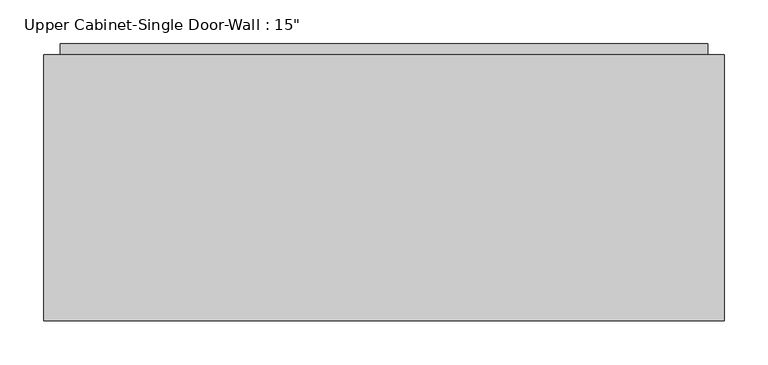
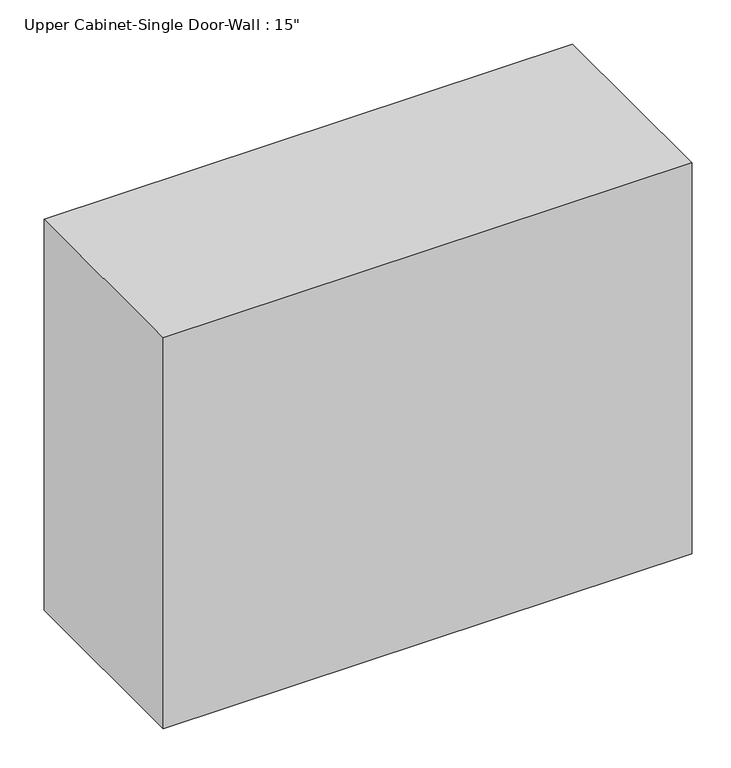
"""IFC4 building model written with IfcOpenShell, lengths in millimetres: furniture geometry."""

import ifcopenshell
import ifcopenshell.guid

model = None  # the IFC model being written
_history = None  # IfcOwnerHistory: only IFC2X3 demands one
_inside = {}  # id of a spatial element -> (the spatial element, [elements in it])
_under = {}  # id of a project, library or spatial element -> (it, [spatial elements below it])
_declared = {}  # id of a project -> (the project, [libraries it declares])
_typed = {}  # id of a type object -> (the type object, [elements of that type])
_made_of = {}  # id of a material, layer set ... -> (it, [elements and type objects made of it])


def new_model(schema):
    """Start an empty IFC model of exactly this schema.

    Asked for "IFC4X3", IfcOpenShell would pick the latest addendum, in which some entities
    have other attributes; the version numbers below select the first issue.
    IFC2X3 requires an IfcOwnerHistory on every rooted entity: one is made here for all.
    """
    global model, _history
    if schema == "IFC4X3":
        model = ifcopenshell.file(schema_version=(4, 3, 0, 0))
    else:
        model = ifcopenshell.file(schema=schema)
    _inside.clear()
    _under.clear()
    _declared.clear()
    _typed.clear()
    _made_of.clear()
    _history = None
    if model.schema == "IFC2X3":
        org = make("IfcOrganization", Name="unknown")
        user = make(
            "IfcPersonAndOrganization",
            ThePerson=make("IfcPerson", FamilyName="unknown"),
            TheOrganization=org,
        )
        app = make(
            "IfcApplication",
            ApplicationDeveloper=org,
            Version="unknown",
            ApplicationFullName="unknown",
            ApplicationIdentifier="unknown",
        )
        _history = make(
            "IfcOwnerHistory",
            OwningUser=user,
            OwningApplication=app,
            ChangeAction="ADDED",
            CreationDate=0,
        )
    return model


def make(cls, **values):
    """One entity of the class cls with the attributes given. An attribute that is None is left unset."""
    return model.create_entity(
        cls, **{name: value for name, value in values.items() if value is not None}
    )


def rooted(cls, **values):
    """An entity with a GlobalId (a new one), such as an element, a storey or a relation."""
    return make(cls, GlobalId=ifcopenshell.guid.new(), OwnerHistory=_history, **values)


def si_unit(unit_type, name, prefix=None):
    """IfcSIUnit, for example si_unit("LENGTHUNIT", "METRE", prefix="MILLI")."""
    return make("IfcSIUnit", UnitType=unit_type, Prefix=prefix, Name=name)


def assignment(units):
    """IfcUnitAssignment: the units of a project."""
    return None if units is None else make("IfcUnitAssignment", Units=units)


def point(xyz):
    """IfcCartesianPoint."""
    return None if xyz is None else make("IfcCartesianPoint", Coordinates=xyz)


def direction(xyz):
    """IfcDirection."""
    return None if xyz is None else make("IfcDirection", DirectionRatios=xyz)


def frame(location, z_axis=None, x_axis=None):
    """IfcAxis2Placement3D, a coordinate frame: its origin and axes. An axis left out is left unset."""
    return make(
        "IfcAxis2Placement3D",
        Location=point(location),
        Axis=direction(z_axis),
        RefDirection=direction(x_axis),
    )


def origin():
    """The frame at (0, 0, 0) with its axes left unset."""
    return frame((0.0, 0.0, 0.0))


def place(relative_to, where):
    """IfcLocalPlacement: puts the frame where relative to a parent placement (None: the world)."""
    return make(
        "IfcLocalPlacement", PlacementRelTo=relative_to, RelativePlacement=where
    )


def context(
    kind, dimensions, precision=None, world=None, true_north=None, identifier=None
):
    """IfcGeometricRepresentationContext, for example the 3D "Model" context."""
    return make(
        "IfcGeometricRepresentationContext",
        ContextIdentifier=identifier,
        ContextType=kind,
        CoordinateSpaceDimension=dimensions,
        Precision=precision,
        WorldCoordinateSystem=world,
        TrueNorth=true_north,
    )


def project(units=None, contexts=None):
    """IfcProject with its units and contexts."""
    return rooted(
        "IfcProject",
        Name="project",
        RepresentationContexts=contexts,
        UnitsInContext=assignment(units),
    )


def spatial(cls, under=None, at=None, **own):
    """A site, building, storey or space (cls), placed at a placement, below another one or the project."""
    s = rooted(cls, ObjectPlacement=at, **own)
    if under is not None:
        _under.setdefault(under.id(), (under, []))[1].append(s)
    return s


def polyline(points):
    """IfcPolyline through the points."""
    return make("IfcPolyline", Points=[point(p) for p in points])


def outline(outer, holes=None, kind="AREA"):
    """IfcArbitraryClosedProfileDef: a profile drawn as a closed curve; with holes, ...WithVoids."""
    if holes is None:
        return make("IfcArbitraryClosedProfileDef", ProfileType=kind, OuterCurve=outer)
    return make(
        "IfcArbitraryProfileDefWithVoids",
        ProfileType=kind,
        OuterCurve=outer,
        InnerCurves=holes,
    )


def extrude(swept, where, along, depth):
    """IfcExtrudedAreaSolid: the profile swept, set in the frame where, extruded along a direction by depth."""
    return make(
        "IfcExtrudedAreaSolid",
        SweptArea=swept,
        Position=where,
        ExtrudedDirection=direction(along),
        Depth=depth,
    )


def faces_of(points, faces, orient=None, outer=None):
    """IfcFace entities. A face is a list of loops; a loop is a list of indices into points, from 0.

    orient and outer hold one flag for each loop. By default every Orientation is true, the
    first loop of a face is its IfcFaceOuterBound and the others are IfcFaceBound.
    """
    made = []
    for i, loops in enumerate(faces):
        bounds = []
        for j, loop in enumerate(loops):
            is_outer = j == 0 if outer is None else outer[i][j]
            bounds.append(
                make(
                    "IfcFaceOuterBound" if is_outer else "IfcFaceBound",
                    Bound=make("IfcPolyLoop", Polygon=[points[k] for k in loop]),
                    Orientation=True if orient is None else orient[i][j],
                )
            )
        made.append(make("IfcFace", Bounds=bounds))
    return made


def faceted_brep(points, faces, orient=None, outer=None, voids=None):
    """IfcFacetedBrep: a solid bounded by flat faces; with voids (closed shells), ...WithVoids."""
    shared = [point(p) for p in points]
    hull = make("IfcClosedShell", CfsFaces=faces_of(shared, faces, orient, outer))
    if voids is None:
        return make("IfcFacetedBrep", Outer=hull)
    return make(
        "IfcFacetedBrepWithVoids",
        Outer=hull,
        Voids=[
            make(cls, CfsFaces=faces_of(shared, fs, o, b)) for cls, fs, o, b in voids
        ],
    )


def shape(context_of_items, identifier, shape_type, items):
    """IfcShapeRepresentation: the items that make up one representation, for example the "Body"."""
    return make(
        "IfcShapeRepresentation",
        ContextOfItems=context_of_items,
        RepresentationIdentifier=identifier,
        RepresentationType=shape_type,
        Items=items,
    )


def source(mapping_origin, context_of_items, identifier, shape_type, items):
    """IfcRepresentationMap: a shape defined once, which mapped items show again and again."""
    return make(
        "IfcRepresentationMap",
        MappingOrigin=mapping_origin,
        MappedRepresentation=shape(context_of_items, identifier, shape_type, items),
    )


def transform(
    local_origin,
    x_axis=None,
    y_axis=None,
    z_axis=None,
    scale=None,
    scale2=None,
    scale3=None,
    uniform=True,
):
    """IfcCartesianTransformationOperator3D, or its non-uniform kind. x_axis, y_axis, z_axis: its Axis1, 2, 3."""
    if uniform:
        return make(
            "IfcCartesianTransformationOperator3D",
            Axis1=direction(x_axis),
            Axis2=direction(y_axis),
            LocalOrigin=point(local_origin),
            Scale=scale,
            Axis3=direction(z_axis),
        )
    return make(
        "IfcCartesianTransformationOperator3DnonUniform",
        Axis1=direction(x_axis),
        Axis2=direction(y_axis),
        LocalOrigin=point(local_origin),
        Scale=scale,
        Axis3=direction(z_axis),
        Scale2=scale2,
        Scale3=scale3,
    )


def mapped(mapping_source, mapping_target):
    """IfcMappedItem: shows the shape of a source again, moved by a transform."""
    return make(
        "IfcMappedItem", MappingSource=mapping_source, MappingTarget=mapping_target
    )


def made_of(thing, what):
    """Note that an element or type object is made of a material, layer set ...; save() writes the relation."""
    if what is not None:
        _made_of.setdefault(what.id(), (what, []))[1].append(thing)
    return thing


def element(
    cls,
    number,
    at=None,
    inside=None,
    cuts=None,
    type_object=None,
    material=None,
    context=None,
    identifier="Body",
    shape_type=None,
    held_by="IfcProductDefinitionShape",
    body=None,
    shapes=None,
    **own,
):
    """One element of the class cls, such as IfcWall. Its Tag is "e" and its number.

    at: its placement. inside: the storey or other place that contains it. cuts: it is an
    opening in that element (IfcRelVoidsElement). A single representation is given by context,
    identifier, shape_type and body (its items); several are given by shapes. held_by: the class
    of the entity that holds the representations. save() writes the other relations.
    """
    e = rooted(cls, Tag="e%d" % number, ObjectPlacement=at, **own)
    if body is not None:
        shapes = [shape(context, identifier, shape_type, body)]
    if shapes is not None:
        e.Representation = make(held_by, Representations=shapes)
    if inside is not None:
        _inside.setdefault(inside.id(), (inside, []))[1].append(e)
    if cuts is not None:
        rooted(
            "IfcRelVoidsElement", RelatingBuildingElement=cuts, RelatedOpeningElement=e
        )
    if type_object is not None:
        _typed.setdefault(type_object.id(), (type_object, []))[1].append(e)
    return made_of(e, material)


def aggregate(whole, parts):
    """IfcRelAggregates: a whole, such as a stair, and the parts it consists of."""
    return rooted("IfcRelAggregates", RelatingObject=whole, RelatedObjects=parts)


def save(model, path):
    """Write the relations noted so far, then the file.

    IfcRelAggregates (storeys below a building ...), IfcRelContainedInSpatialStructure (elements
    in a storey), IfcRelDefinesByType, IfcRelAssociatesMaterial and IfcRelDeclares: one each for
    every whole, place, type object, material and project.
    """
    for whole, parts in _under.values():
        aggregate(whole, parts)
    for where, things in _inside.values():
        rooted(
            "IfcRelContainedInSpatialStructure",
            RelatedElements=things,
            RelatingStructure=where,
        )
    for kind, things in _typed.values():
        rooted("IfcRelDefinesByType", RelatedObjects=things, RelatingType=kind)
    for what, things in _made_of.values():
        rooted("IfcRelAssociatesMaterial", RelatedObjects=things, RelatingMaterial=what)
    for by, libraries in _declared.values():
        rooted("IfcRelDeclares", RelatingContext=by, RelatedDefinitions=libraries)
    model.write(path)


def furniture_3052ab14(model_context):
    return source(origin(), model_context, "Body", "SolidModel", [
        faceted_brep([(-521.1705634, 50.8, 2133.6), (-521.1705634, 50.8, 1524.0), (258.3711628, 50.8, 1524.0), (258.3711628, 50.8, 2133.6), (-521.1705634, 355.6, 2133.6), (258.3711628, 355.6, 2133.6), (258.3711628, 355.6, 1524.0), (-521.1705634, 355.6, 1524.0), (-502.1205634, 355.6, 2114.55), (-502.1205634, 355.6, 1543.05), (239.3211628, 355.6, 1543.05), (239.3211628, 355.6, 2114.55), (239.3211628, 69.85, 2114.55), (-502.1205634, 69.85, 2114.55), (239.3211628, 69.85, 1543.05), (-502.1205634, 69.85, 1543.05)], [[[0, 1, 2, 3]], [[4, 5, 6, 7], [8, 9, 10, 11]], [[1, 0, 4, 7]], [[2, 1, 7, 6]], [[3, 2, 6, 5]], [[0, 3, 5, 4]], [[8, 11, 12, 13]], [[11, 10, 14, 12]], [[10, 9, 15, 14]], [[9, 8, 13, 15]], [[13, 12, 14, 15]]]),
        extrude(outline(polyline([(-502.1205634, 368.3), (239.3211628, 368.3), (239.3211628, 336.55), (-502.1205634, 336.55), (-502.1205634, 368.3)])), frame((0.0, 0.0, 1543.05), z_axis=(0.0, 0.0, 1.0), x_axis=(1.0, 0.0, 0.0)), (0.0, 0.0, 1.0), 571.5),
    ])


if __name__ == "__main__":
    model = new_model("IFC4")
    model_context = context("Model", 3, world=origin())
    ifc_project = project(units=[si_unit("LENGTHUNIT", "METRE", prefix="MILLI")], contexts=[model_context])
    site = spatial("IfcSite", under=ifc_project)
    building = spatial("IfcBuilding", under=site)
    placement = place(None, origin())
    furniture_shape = furniture_3052ab14(model_context)
    element("IfcFurniture", 1, ObjectType="Upper Cabinet-Single Door-Wall : 15\"", at=placement, inside=building, context=model_context, shape_type="MappedRepresentation", body=[
        mapped(furniture_shape, transform((0.0, 0.0, 0.0), x_axis=(1.0, 0.0, 0.0), y_axis=(0.0, 1.0, 0.0), z_axis=(0.0, 0.0, 1.0))),
    ])
    save(model, "model.ifc")
